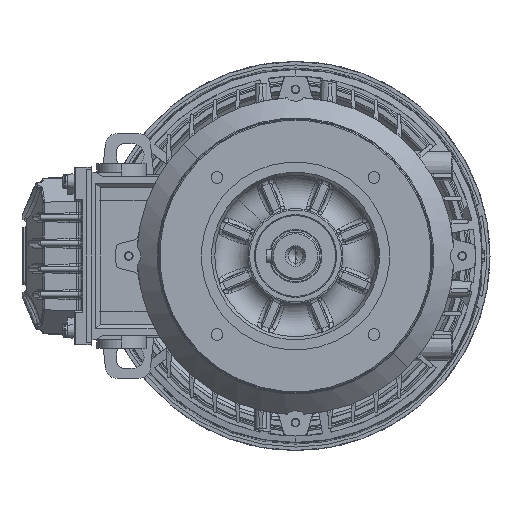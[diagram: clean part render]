
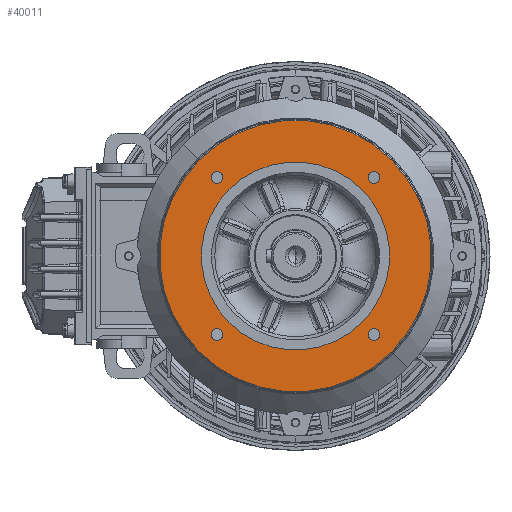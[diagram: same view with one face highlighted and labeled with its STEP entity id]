
A CAD part, left-side view. The second image highlights one B-rep face of the part: STEP entity #40011.
In plain terms, the highlighted planar face has unit normal (-1, 0, 0) as drawn and (0, 1, 0) by its records, which use the part's own axes.
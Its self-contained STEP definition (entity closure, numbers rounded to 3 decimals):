
#456 = FACE_BOUND ( 'NONE', #133171, .T. ) ;
#2363 = CIRCLE ( 'NONE', #53167, 55. ) ;
#3542 = DIRECTION ( 'NONE',  ( 0., 1., 0. ) ) ;
#3714 = CARTESIAN_POINT ( 'NONE',  ( 0., 44., 61.6 ) ) ;
#5015 = AXIS2_PLACEMENT_3D ( 'NONE', #72917, #3542, #102899 ) ;
#5123 = AXIS2_PLACEMENT_3D ( 'NONE', #39792, #82956, #68900 ) ;
#7511 = AXIS2_PLACEMENT_3D ( 'NONE', #148991, #93556, #122671 ) ;
#7563 = CARTESIAN_POINT ( 'NONE',  ( 0., 44., 0. ) ) ;
#7633 = DIRECTION ( 'NONE',  ( 0., 1., 0. ) ) ;
#8122 = DIRECTION ( 'NONE',  ( 0., 0., 1. ) ) ;
#8793 = DIRECTION ( 'NONE',  ( 0., 1., 0. ) ) ;
#10329 = DIRECTION ( 'NONE',  ( 0., 0., 1. ) ) ;
#11242 = DIRECTION ( 'NONE',  ( 0., 1., 0. ) ) ;
#12633 = FACE_BOUND ( 'NONE', #113949, .T. ) ;
#12758 = VERTEX_POINT ( 'NONE', #3714 ) ;
#13925 = CIRCLE ( 'NONE', #5015, 79.431 ) ;
#14775 = CARTESIAN_POINT ( 'NONE',  ( 0., 44., 0. ) ) ;
#15311 = VERTEX_POINT ( 'NONE', #76834 ) ;
#16482 = ORIENTED_EDGE ( 'NONE', *, *, #152149, .F. ) ;
#17824 = VERTEX_POINT ( 'NONE', #181463 ) ;
#19465 = AXIS2_PLACEMENT_3D ( 'NONE', #81858, #8793, #68730 ) ;
#21735 = CIRCLE ( 'NONE', #87583, 3.4 ) ;
#21958 = AXIS2_PLACEMENT_3D ( 'NONE', #106999, #7633, #52545 ) ;
#22135 = DIRECTION ( 'NONE',  ( 0., 1., 0. ) ) ;
#22448 = AXIS2_PLACEMENT_3D ( 'NONE', #7563, #11242, #108746 ) ;
#28448 = VERTEX_POINT ( 'NONE', #162257 ) ;
#29533 = VERTEX_POINT ( 'NONE', #99322 ) ;
#35795 = CARTESIAN_POINT ( 'NONE',  ( -65., 44., 0. ) ) ;
#36437 = AXIS2_PLACEMENT_3D ( 'NONE', #136820, #149976, #105867 ) ;
#39792 = CARTESIAN_POINT ( 'NONE',  ( 0., 44., 0. ) ) ;
#40011 = ADVANCED_FACE ( 'NONE', ( #456, #12633, #85712, #97014, #184218, #171099 ), #172039, .T. ) ;
#40110 = CARTESIAN_POINT ( 'NONE',  ( 65., 44., 3.4 ) ) ;
#40245 = DIRECTION ( 'NONE',  ( 0., 1., 0. ) ) ;
#44433 = AXIS2_PLACEMENT_3D ( 'NONE', #35795, #161550, #64860 ) ;
#44697 = EDGE_CURVE ( 'NONE', #17824, #100362, #13925, .T. ) ;
#52545 = DIRECTION ( 'NONE',  ( 0., 0., 1. ) ) ;
#53167 = AXIS2_PLACEMENT_3D ( 'NONE', #182637, #95429, #155474 ) ;
#54671 = CARTESIAN_POINT ( 'NONE',  ( 0., 44., 55. ) ) ;
#55920 = VERTEX_POINT ( 'NONE', #126833 ) ;
#57606 = VERTEX_POINT ( 'NONE', #94516 ) ;
#60149 = EDGE_LOOP ( 'NONE', ( #95741, #130415 ) ) ;
#60446 = CIRCLE ( 'NONE', #36437, 3.4 ) ;
#63722 = VERTEX_POINT ( 'NONE', #40110 ) ;
#63814 = ORIENTED_EDGE ( 'NONE', *, *, #96668, .F. ) ;
#64579 = EDGE_LOOP ( 'NONE', ( #89950, #126552 ) ) ;
#64860 = DIRECTION ( 'NONE',  ( 0., 0., 1. ) ) ;
#68172 = ORIENTED_EDGE ( 'NONE', *, *, #108902, .F. ) ;
#68410 = CIRCLE ( 'NONE', #44433, 3.4 ) ;
#68730 = DIRECTION ( 'NONE',  ( 0., 0., 1. ) ) ;
#68900 = DIRECTION ( 'NONE',  ( 0., 0., 1. ) ) ;
#70021 = ORIENTED_EDGE ( 'NONE', *, *, #127661, .F. ) ;
#71438 = EDGE_CURVE ( 'NONE', #76839, #148183, #2363, .T. ) ;
#72917 = CARTESIAN_POINT ( 'NONE',  ( 0., 44., 0. ) ) ;
#76834 = CARTESIAN_POINT ( 'NONE',  ( -65., 44., -3.4 ) ) ;
#76839 = VERTEX_POINT ( 'NONE', #54671 ) ;
#77190 = EDGE_CURVE ( 'NONE', #148183, #76839, #138306, .T. ) ;
#81858 = CARTESIAN_POINT ( 'NONE',  ( 0., 44., -65. ) ) ;
#81928 = DIRECTION ( 'NONE',  ( 0., 0., 1. ) ) ;
#82956 = DIRECTION ( 'NONE',  ( 0., 1., 0. ) ) ;
#85712 = FACE_BOUND ( 'NONE', #171902, .T. ) ;
#86242 = EDGE_CURVE ( 'NONE', #55920, #15311, #68410, .T. ) ;
#87583 = AXIS2_PLACEMENT_3D ( 'NONE', #112523, #40245, #10329 ) ;
#88276 = CIRCLE ( 'NONE', #7511, 3.4 ) ;
#89950 = ORIENTED_EDGE ( 'NONE', *, *, #184054, .T. ) ;
#93556 = DIRECTION ( 'NONE',  ( 0., 1., 0. ) ) ;
#94150 = ORIENTED_EDGE ( 'NONE', *, *, #71438, .F. ) ;
#94516 = CARTESIAN_POINT ( 'NONE',  ( 0., 44., 68.4 ) ) ;
#95429 = DIRECTION ( 'NONE',  ( 0., 1., 0. ) ) ;
#95741 = ORIENTED_EDGE ( 'NONE', *, *, #116073, .F. ) ;
#96668 = EDGE_CURVE ( 'NONE', #28448, #29533, #88276, .T. ) ;
#96868 = CARTESIAN_POINT ( 'NONE',  ( 65., 44., 0. ) ) ;
#97014 = FACE_BOUND ( 'NONE', #60149, .T. ) ;
#99322 = CARTESIAN_POINT ( 'NONE',  ( 0., 44., -61.6 ) ) ;
#100362 = VERTEX_POINT ( 'NONE', #171251 ) ;
#102372 = CARTESIAN_POINT ( 'NONE',  ( 0., 44., -55. ) ) ;
#102899 = DIRECTION ( 'NONE',  ( 0., 0., 1. ) ) ;
#103311 = CIRCLE ( 'NONE', #22448, 79.431 ) ;
#105867 = DIRECTION ( 'NONE',  ( 0., 0., 1. ) ) ;
#106679 = CIRCLE ( 'NONE', #160533, 3.4 ) ;
#106999 = CARTESIAN_POINT ( 'NONE',  ( 0., 44., 65. ) ) ;
#108268 = AXIS2_PLACEMENT_3D ( 'NONE', #14775, #159205, #129236 ) ;
#108746 = DIRECTION ( 'NONE',  ( 0., 0., 1. ) ) ;
#108902 = EDGE_CURVE ( 'NONE', #164786, #63722, #113960, .T. ) ;
#112523 = CARTESIAN_POINT ( 'NONE',  ( 65., 44., 0. ) ) ;
#113949 = EDGE_LOOP ( 'NONE', ( #181269, #63814 ) ) ;
#113960 = CIRCLE ( 'NONE', #119947, 3.4 ) ;
#116073 = EDGE_CURVE ( 'NONE', #57606, #12758, #60446, .T. ) ;
#116707 = CARTESIAN_POINT ( 'NONE',  ( 65., 44., -3.4 ) ) ;
#118177 = ORIENTED_EDGE ( 'NONE', *, *, #86242, .F. ) ;
#119947 = AXIS2_PLACEMENT_3D ( 'NONE', #96868, #22135, #8122 ) ;
#122671 = DIRECTION ( 'NONE',  ( 0., 0., 1. ) ) ;
#126552 = ORIENTED_EDGE ( 'NONE', *, *, #44697, .T. ) ;
#126833 = CARTESIAN_POINT ( 'NONE',  ( -65., 44., 3.4 ) ) ;
#127661 = EDGE_CURVE ( 'NONE', #63722, #164786, #21735, .T. ) ;
#129236 = DIRECTION ( 'NONE',  ( 0., 0., 1. ) ) ;
#130415 = ORIENTED_EDGE ( 'NONE', *, *, #148325, .F. ) ;
#133171 = EDGE_LOOP ( 'NONE', ( #118177, #16482 ) ) ;
#136820 = CARTESIAN_POINT ( 'NONE',  ( 0., 44., 65. ) ) ;
#138306 = CIRCLE ( 'NONE', #108268, 55. ) ;
#142288 = CIRCLE ( 'NONE', #19465, 3.4 ) ;
#146060 = EDGE_CURVE ( 'NONE', #29533, #28448, #142288, .T. ) ;
#148183 = VERTEX_POINT ( 'NONE', #102372 ) ;
#148325 = EDGE_CURVE ( 'NONE', #12758, #57606, #171812, .T. ) ;
#148991 = CARTESIAN_POINT ( 'NONE',  ( 0., 44., -65. ) ) ;
#149976 = DIRECTION ( 'NONE',  ( 0., 1., 0. ) ) ;
#152149 = EDGE_CURVE ( 'NONE', #15311, #55920, #106679, .T. ) ;
#153244 = CARTESIAN_POINT ( 'NONE',  ( -65., 44., 0. ) ) ;
#154569 = EDGE_LOOP ( 'NONE', ( #94150, #158212 ) ) ;
#155474 = DIRECTION ( 'NONE',  ( 0., 0., 1. ) ) ;
#158212 = ORIENTED_EDGE ( 'NONE', *, *, #77190, .F. ) ;
#159205 = DIRECTION ( 'NONE',  ( 0., 1., 0. ) ) ;
#160533 = AXIS2_PLACEMENT_3D ( 'NONE', #153244, #180421, #81928 ) ;
#161550 = DIRECTION ( 'NONE',  ( 0., 1., 0. ) ) ;
#162257 = CARTESIAN_POINT ( 'NONE',  ( 0., 44., -68.4 ) ) ;
#164786 = VERTEX_POINT ( 'NONE', #116707 ) ;
#171099 = FACE_BOUND ( 'NONE', #154569, .T. ) ;
#171251 = CARTESIAN_POINT ( 'NONE',  ( 0., 44., -79.431 ) ) ;
#171812 = CIRCLE ( 'NONE', #21958, 3.4 ) ;
#171902 = EDGE_LOOP ( 'NONE', ( #70021, #68172 ) ) ;
#172039 = PLANE ( 'NONE',  #5123 ) ;
#180421 = DIRECTION ( 'NONE',  ( 0., 1., 0. ) ) ;
#181269 = ORIENTED_EDGE ( 'NONE', *, *, #146060, .F. ) ;
#181463 = CARTESIAN_POINT ( 'NONE',  ( 0., 44., 79.431 ) ) ;
#182637 = CARTESIAN_POINT ( 'NONE',  ( 0., 44., 0. ) ) ;
#184054 = EDGE_CURVE ( 'NONE', #100362, #17824, #103311, .T. ) ;
#184218 = FACE_OUTER_BOUND ( 'NONE', #64579, .T. ) ;
